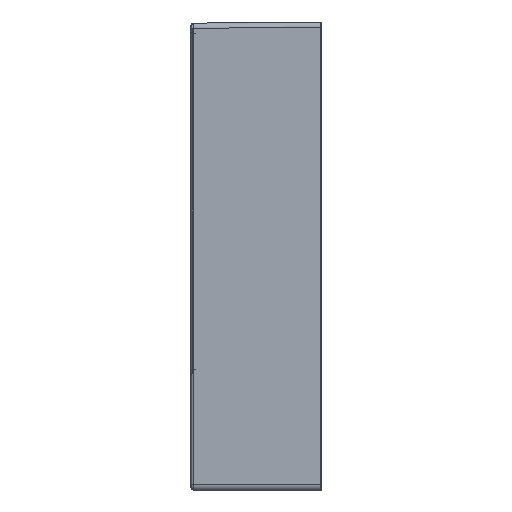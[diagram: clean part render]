
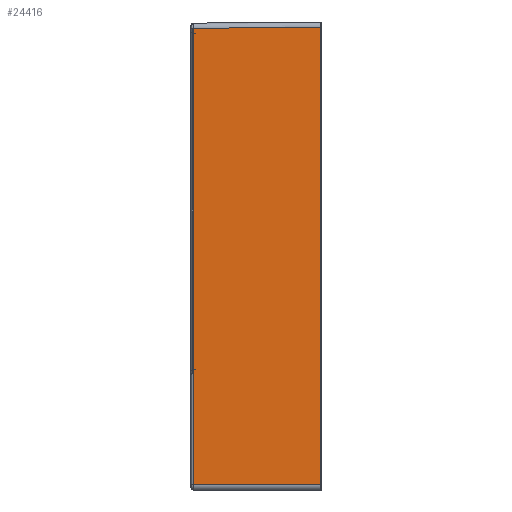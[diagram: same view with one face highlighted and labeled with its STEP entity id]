
A CAD part, left-side view. The second image highlights one B-rep face of the part: STEP entity #24416.
In plain terms, the highlighted planar face has unit normal (-1, 0.009, 0).
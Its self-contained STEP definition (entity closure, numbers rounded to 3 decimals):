
#73 = DIRECTION ( 'NONE',  ( -1., 0.009, 0. ) ) ;
#301 = PLANE ( 'NONE',  #17207 ) ;
#4090 = CARTESIAN_POINT ( 'NONE',  ( -304.966, 128.873, 243.876 ) ) ;
#4099 = FACE_OUTER_BOUND ( 'NONE', #46257, .T. ) ;
#5911 = VECTOR ( 'NONE', #44090, 1000. ) ;
#6959 = ORIENTED_EDGE ( 'NONE', *, *, #24738, .T. ) ;
#8087 = DIRECTION ( 'NONE',  ( 0.009, 1., -0.009 ) ) ;
#8403 = VECTOR ( 'NONE', #37593, 1000. ) ;
#8904 = EDGE_CURVE ( 'NONE', #35078, #30555, #12050, .T. ) ;
#9981 = DIRECTION ( 'NONE',  ( -0.009, -1., 0. ) ) ;
#12050 = LINE ( 'NONE', #29419, #5911 ) ;
#12727 = CARTESIAN_POINT ( 'NONE',  ( -305.017, 123.017, -195. ) ) ;
#14511 = CARTESIAN_POINT ( 'NONE',  ( -305., 125., -200. ) ) ;
#16884 = VERTEX_POINT ( 'NONE', #45222 ) ;
#17207 = AXIS2_PLACEMENT_3D ( 'NONE', #14511, #73, #36351 ) ;
#19008 = ORIENTED_EDGE ( 'NONE', *, *, #40363, .T. ) ;
#24416 = ADVANCED_FACE ( 'NONE', ( #4099 ), #301, .T. ) ;
#24738 = EDGE_CURVE ( 'NONE', #32800, #35078, #31582, .T. ) ;
#24822 = VECTOR ( 'NONE', #9981, 1000. ) ;
#26237 = CARTESIAN_POINT ( 'NONE',  ( -305.017, 123.017, -195. ) ) ;
#27560 = CARTESIAN_POINT ( 'NONE',  ( -305., 125., -195. ) ) ;
#29419 = CARTESIAN_POINT ( 'NONE',  ( -306.091, 0., -200. ) ) ;
#30555 = VERTEX_POINT ( 'NONE', #36609 ) ;
#31582 = LINE ( 'NONE', #27560, #24822 ) ;
#32800 = VERTEX_POINT ( 'NONE', #12727 ) ;
#33340 = VECTOR ( 'NONE', #8087, 1000. ) ;
#33483 = LINE ( 'NONE', #4090, #33340 ) ;
#34642 = ORIENTED_EDGE ( 'NONE', *, *, #45980, .T. ) ;
#35078 = VERTEX_POINT ( 'NONE', #44057 ) ;
#36351 = DIRECTION ( 'NONE',  ( -0.009, -1., 0. ) ) ;
#36609 = CARTESIAN_POINT ( 'NONE',  ( -306.091, 0., 245. ) ) ;
#37593 = DIRECTION ( 'NONE',  ( 0., 0., -1. ) ) ;
#40363 = EDGE_CURVE ( 'NONE', #30555, #16884, #33483, .T. ) ;
#40607 = ORIENTED_EDGE ( 'NONE', *, *, #8904, .T. ) ;
#41158 = LINE ( 'NONE', #26237, #8403 ) ;
#44057 = CARTESIAN_POINT ( 'NONE',  ( -306.091, 0., -195. ) ) ;
#44090 = DIRECTION ( 'NONE',  ( 0., 0., 1. ) ) ;
#45222 = CARTESIAN_POINT ( 'NONE',  ( -305.017, 123.017, 243.927 ) ) ;
#45980 = EDGE_CURVE ( 'NONE', #16884, #32800, #41158, .T. ) ;
#46257 = EDGE_LOOP ( 'NONE', ( #19008, #34642, #6959, #40607 ) ) ;
